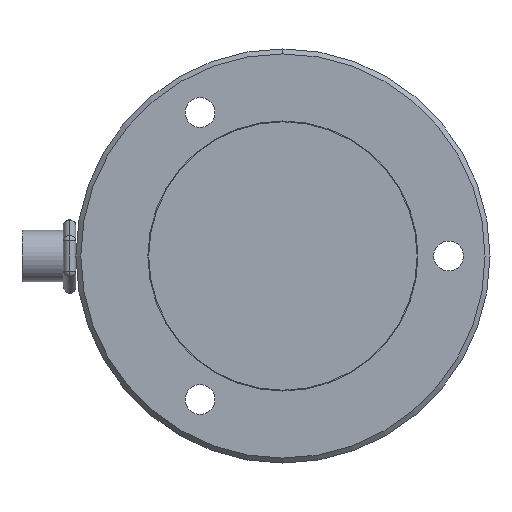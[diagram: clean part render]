
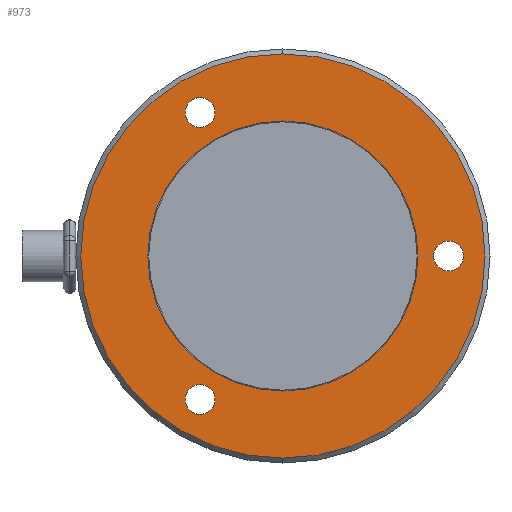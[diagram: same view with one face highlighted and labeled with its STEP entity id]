
A CAD part, front view. The second image highlights one B-rep face of the part: STEP entity #973.
In plain terms, the highlighted planar face has unit normal (0, -1, 0).
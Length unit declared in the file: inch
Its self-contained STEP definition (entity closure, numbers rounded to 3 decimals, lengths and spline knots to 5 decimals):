
#20 = CIRCLE ( 'NONE', #605, 0.09 ) ;
#27 = CIRCLE ( 'NONE', #609, 0.09 ) ;
#40 = DIRECTION ( 'NONE',  ( 0., 1., 0. ) ) ;
#42 = CARTESIAN_POINT ( 'NONE',  ( -0.5, 0., 0.86603 ) ) ;
#46 = DIRECTION ( 'NONE',  ( 0., 0., 1. ) ) ;
#48 = DIRECTION ( 'NONE',  ( 0., 1., 0. ) ) ;
#54 = DIRECTION ( 'NONE',  ( 1., 0., 0. ) ) ;
#59 = DIRECTION ( 'NONE',  ( 1., 0., 0. ) ) ;
#67 = DIRECTION ( 'NONE',  ( 0., 1., 0. ) ) ;
#76 = CARTESIAN_POINT ( 'NONE',  ( -0.5, 0., 0.86603 ) ) ;
#78 = CARTESIAN_POINT ( 'NONE',  ( 1., 0., 0. ) ) ;
#93 = CARTESIAN_POINT ( 'NONE',  ( 0., 0., 0. ) ) ;
#94 = DIRECTION ( 'NONE',  ( 0., -1., 0. ) ) ;
#95 = DIRECTION ( 'NONE',  ( 0., 0., 1. ) ) ;
#105 = CARTESIAN_POINT ( 'NONE',  ( 0., 0., 0. ) ) ;
#106 = DIRECTION ( 'NONE',  ( 0., -1., 0. ) ) ;
#110 = DIRECTION ( 'NONE',  ( 0., 1., 0. ) ) ;
#111 = DIRECTION ( 'NONE',  ( 0., 0., 1. ) ) ;
#114 = CARTESIAN_POINT ( 'NONE',  ( -0.5, 0., -0.86603 ) ) ;
#121 = DIRECTION ( 'NONE',  ( 0., 0., -1. ) ) ;
#208 = VERTEX_POINT ( 'NONE', #1115 ) ;
#211 = VERTEX_POINT ( 'NONE', #1139 ) ;
#217 = VERTEX_POINT ( 'NONE', #1130 ) ;
#219 = VERTEX_POINT ( 'NONE', #1133 ) ;
#228 = VERTEX_POINT ( 'NONE', #1142 ) ;
#230 = VERTEX_POINT ( 'NONE', #1152 ) ;
#235 = VERTEX_POINT ( 'NONE', #1147 ) ;
#236 = VERTEX_POINT ( 'NONE', #1148 ) ;
#244 = VERTEX_POINT ( 'NONE', #1161 ) ;
#346 = ORIENTED_EDGE ( 'NONE', *, *, #889, .T. ) ;
#368 = ORIENTED_EDGE ( 'NONE', *, *, #865, .F. ) ;
#374 = ORIENTED_EDGE ( 'NONE', *, *, #867, .T. ) ;
#380 = ORIENTED_EDGE ( 'NONE', *, *, #893, .F. ) ;
#459 = ORIENTED_EDGE ( 'NONE', *, *, #895, .T. ) ;
#462 = EDGE_LOOP ( 'NONE', ( #459, #475 ) ) ;
#470 = ORIENTED_EDGE ( 'NONE', *, *, #917, .T. ) ;
#475 = ORIENTED_EDGE ( 'NONE', *, *, #941, .T. ) ;
#476 = ORIENTED_EDGE ( 'NONE', *, *, #944, .T. ) ;
#478 = ORIENTED_EDGE ( 'NONE', *, *, #925, .T. ) ;
#494 = ORIENTED_EDGE ( 'NONE', *, *, #921, .T. ) ;
#510 = EDGE_LOOP ( 'NONE', ( #346, #374 ) ) ;
#511 = EDGE_LOOP ( 'NONE', ( #380, #368 ) ) ;
#530 = EDGE_LOOP ( 'NONE', ( #470, #476 ) ) ;
#532 = EDGE_LOOP ( 'NONE', ( #478, #494 ) ) ;
#543 = AXIS2_PLACEMENT_3D ( 'NONE', #1083, #1084, #1087 ) ;
#559 = AXIS2_PLACEMENT_3D ( 'NONE', #1082, #1088, #1085 ) ;
#569 = AXIS2_PLACEMENT_3D ( 'NONE', #93, #94, #95 ) ;
#571 = AXIS2_PLACEMENT_3D ( 'NONE', #105, #106, #121 ) ;
#573 = AXIS2_PLACEMENT_3D ( 'NONE', #114, #110, #111 ) ;
#594 = AXIS2_PLACEMENT_3D ( 'NONE', #76, #67, #59 ) ;
#605 = AXIS2_PLACEMENT_3D ( 'NONE', #78, #40, #46 ) ;
#606 = AXIS2_PLACEMENT_3D ( 'NONE', #1059, #1061, #1062 ) ;
#609 = AXIS2_PLACEMENT_3D ( 'NONE', #42, #48, #54 ) ;
#612 = AXIS2_PLACEMENT_3D ( 'NONE', #1444, #1478, #1447 ) ;
#647 = AXIS2_PLACEMENT_3D ( 'NONE', #1067, #1077, #1070 ) ;
#767 = CIRCLE ( 'NONE', #559, 0.815 ) ;
#791 = CIRCLE ( 'NONE', #543, 1.22 ) ;
#826 = CIRCLE ( 'NONE', #571, 0.815 ) ;
#829 = CIRCLE ( 'NONE', #569, 1.22 ) ;
#834 = CIRCLE ( 'NONE', #573, 0.09 ) ;
#865 = EDGE_CURVE ( 'NONE', #211, #236, #767, .T. ) ;
#867 = EDGE_CURVE ( 'NONE', #208, #1105, #791, .T. ) ;
#889 = EDGE_CURVE ( 'NONE', #1105, #208, #829, .T. ) ;
#893 = EDGE_CURVE ( 'NONE', #236, #211, #826, .T. ) ;
#895 = EDGE_CURVE ( 'NONE', #230, #217, #834, .T. ) ;
#917 = EDGE_CURVE ( 'NONE', #219, #244, #20, .T. ) ;
#921 = EDGE_CURVE ( 'NONE', #235, #228, #27, .T. ) ;
#925 = EDGE_CURVE ( 'NONE', #228, #235, #1007, .T. ) ;
#941 = EDGE_CURVE ( 'NONE', #217, #230, #1260, .T. ) ;
#944 = EDGE_CURVE ( 'NONE', #244, #219, #1242, .T. ) ;
#973 = ADVANCED_FACE ( 'NONE', ( #1349, #1334, #1350, #1322, #1306 ), #1474, .F. ) ;
#1007 = CIRCLE ( 'NONE', #594, 0.09 ) ;
#1059 = CARTESIAN_POINT ( 'NONE',  ( -0.5, 0., -0.86603 ) ) ;
#1061 = DIRECTION ( 'NONE',  ( 0., 1., 0. ) ) ;
#1062 = DIRECTION ( 'NONE',  ( 0., 0., 1. ) ) ;
#1067 = CARTESIAN_POINT ( 'NONE',  ( 1., 0., 0. ) ) ;
#1070 = DIRECTION ( 'NONE',  ( 0., 0., 1. ) ) ;
#1077 = DIRECTION ( 'NONE',  ( 0., 1., 0. ) ) ;
#1082 = CARTESIAN_POINT ( 'NONE',  ( 0., 0., 0. ) ) ;
#1083 = CARTESIAN_POINT ( 'NONE',  ( 0., 0., 0. ) ) ;
#1084 = DIRECTION ( 'NONE',  ( 0., -1., 0. ) ) ;
#1085 = DIRECTION ( 'NONE',  ( 0., 0., -1. ) ) ;
#1087 = DIRECTION ( 'NONE',  ( 0., 0., 1. ) ) ;
#1088 = DIRECTION ( 'NONE',  ( 0., -1., 0. ) ) ;
#1105 = VERTEX_POINT ( 'NONE', #1657 ) ;
#1115 = CARTESIAN_POINT ( 'NONE',  ( 0., 0., -1.22 ) ) ;
#1130 = CARTESIAN_POINT ( 'NONE',  ( -0.5, 0., -0.95603 ) ) ;
#1133 = CARTESIAN_POINT ( 'NONE',  ( 1., 0., 0.09 ) ) ;
#1139 = CARTESIAN_POINT ( 'NONE',  ( 0., 0., 0.815 ) ) ;
#1142 = CARTESIAN_POINT ( 'NONE',  ( -0.5, 0., 0.95603 ) ) ;
#1147 = CARTESIAN_POINT ( 'NONE',  ( -0.5, 0., 0.77603 ) ) ;
#1148 = CARTESIAN_POINT ( 'NONE',  ( 0., 0., -0.815 ) ) ;
#1152 = CARTESIAN_POINT ( 'NONE',  ( -0.5, 0., -0.77603 ) ) ;
#1161 = CARTESIAN_POINT ( 'NONE',  ( 1., 0., -0.09 ) ) ;
#1242 = CIRCLE ( 'NONE', #647, 0.09 ) ;
#1260 = CIRCLE ( 'NONE', #606, 0.09 ) ;
#1306 = FACE_BOUND ( 'NONE', #462, .T. ) ;
#1322 = FACE_BOUND ( 'NONE', #530, .T. ) ;
#1334 = FACE_BOUND ( 'NONE', #511, .T. ) ;
#1349 = FACE_OUTER_BOUND ( 'NONE', #510, .T. ) ;
#1350 = FACE_BOUND ( 'NONE', #532, .T. ) ;
#1444 = CARTESIAN_POINT ( 'NONE',  ( 0., 0., 0. ) ) ;
#1447 = DIRECTION ( 'NONE',  ( 0., 0., 1. ) ) ;
#1474 = PLANE ( 'NONE',  #612 ) ;
#1478 = DIRECTION ( 'NONE',  ( 0., 1., 0. ) ) ;
#1657 = CARTESIAN_POINT ( 'NONE',  ( 0., 0., 1.22 ) ) ;
